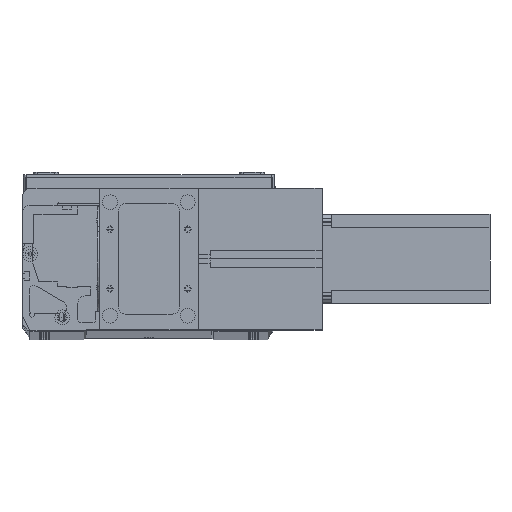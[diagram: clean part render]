
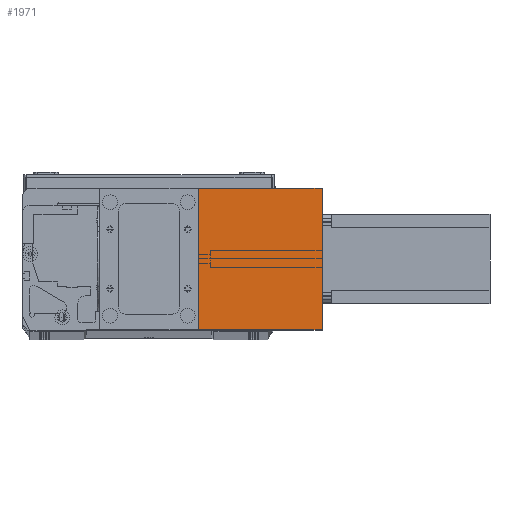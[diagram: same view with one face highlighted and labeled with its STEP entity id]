
A CAD part, top view. The second image highlights one B-rep face of the part: STEP entity #1971.
In plain terms, the highlighted planar face has unit normal (0, 0, 1) as drawn and (1, 0, 0) by its records, which use the part's own axes.
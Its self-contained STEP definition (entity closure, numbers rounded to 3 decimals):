
#300 = CARTESIAN_POINT ( 'NONE',  ( 82., 0., 0. ) ) ;
#320 = PLANE ( 'NONE',  #23362 ) ;
#325 = DIRECTION ( 'NONE',  ( 0., 0., 1. ) ) ;
#360 = ORIENTED_EDGE ( 'NONE', *, *, #24051, .T. ) ;
#996 = VERTEX_POINT ( 'NONE', #17921 ) ;
#1208 = DIRECTION ( 'NONE',  ( -1., 0., 0. ) ) ;
#1338 = ORIENTED_EDGE ( 'NONE', *, *, #13180, .T. ) ;
#1971 = ADVANCED_FACE ( 'NONE', ( #18336 ), #320, .F. ) ;
#3444 = DIRECTION ( 'NONE',  ( 0., 1., 0. ) ) ;
#6185 = VECTOR ( 'NONE', #16907, 1000. ) ;
#7139 = CARTESIAN_POINT ( 'NONE',  ( 82., 0., 83. ) ) ;
#7982 = VERTEX_POINT ( 'NONE', #300 ) ;
#8828 = CARTESIAN_POINT ( 'NONE',  ( 82., 0., 0. ) ) ;
#9142 = DIRECTION ( 'NONE',  ( 0., 1., 0. ) ) ;
#9474 = EDGE_LOOP ( 'NONE', ( #1338, #21898, #10157, #360 ) ) ;
#10157 = ORIENTED_EDGE ( 'NONE', *, *, #31423, .F. ) ;
#10232 = VECTOR ( 'NONE', #3444, 1000. ) ;
#10951 = EDGE_CURVE ( 'NONE', #996, #11147, #11924, .T. ) ;
#11147 = VERTEX_POINT ( 'NONE', #18688 ) ;
#11924 = LINE ( 'NONE', #31035, #24918 ) ;
#13180 = EDGE_CURVE ( 'NONE', #7982, #11147, #16354, .T. ) ;
#15046 = CARTESIAN_POINT ( 'NONE',  ( 82., 0., 83. ) ) ;
#15624 = CARTESIAN_POINT ( 'NONE',  ( 82., 0., 83. ) ) ;
#16354 = LINE ( 'NONE', #8828, #29287 ) ;
#16690 = LINE ( 'NONE', #15624, #10232 ) ;
#16907 = DIRECTION ( 'NONE',  ( 0., 0., -1. ) ) ;
#17921 = CARTESIAN_POINT ( 'NONE',  ( 82., 95., 83. ) ) ;
#18336 = FACE_OUTER_BOUND ( 'NONE', #9474, .T. ) ;
#18688 = CARTESIAN_POINT ( 'NONE',  ( 82., 95., 0. ) ) ;
#21898 = ORIENTED_EDGE ( 'NONE', *, *, #10951, .F. ) ;
#23362 = AXIS2_PLACEMENT_3D ( 'NONE', #15046, #1208, #325 ) ;
#24051 = EDGE_CURVE ( 'NONE', #26221, #7982, #24984, .T. ) ;
#24918 = VECTOR ( 'NONE', #30832, 1000. ) ;
#24984 = LINE ( 'NONE', #7139, #6185 ) ;
#26221 = VERTEX_POINT ( 'NONE', #30297 ) ;
#29287 = VECTOR ( 'NONE', #9142, 1000. ) ;
#30297 = CARTESIAN_POINT ( 'NONE',  ( 82., 0., 83. ) ) ;
#30832 = DIRECTION ( 'NONE',  ( 0., 0., -1. ) ) ;
#31035 = CARTESIAN_POINT ( 'NONE',  ( 82., 95., 83. ) ) ;
#31423 = EDGE_CURVE ( 'NONE', #26221, #996, #16690, .T. ) ;
